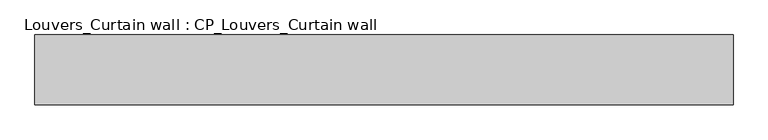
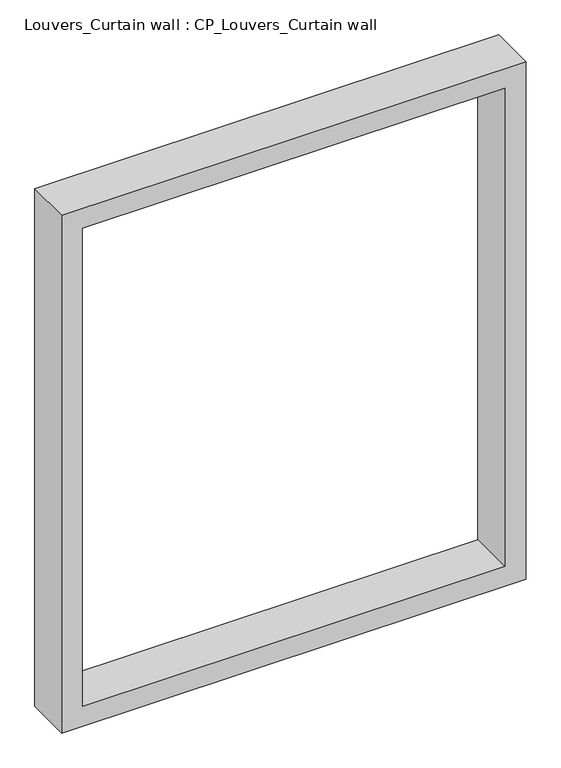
"""IFC4 building model written with IfcOpenShell, lengths in millimetres: plate geometry, Louvers_Curtain wall : CP_Louvers_Curtain wall."""

from ifc_helpers import new_model, si_unit, frame, origin, place, context, project, spatial, polyline, outline, extrude, source, transform, mapped, element, save


def louvers_curtain_wall_cp_louvers_curtain_wall_1faf513d(model_context):
    return source(origin(), model_context, "Body", "SweptSolid", [
        extrude(outline(polyline([(0.0, 635.6919326), (1498.6, 635.6919326), (1498.6, -635.6919326), (0.0, -635.6919326), (0.0, 635.6919326)]), holes=[polyline([(57.15, -578.5419326), (1441.45, -578.5419326), (1441.45, 578.5419326), (57.15, 578.5419326), (57.15, -578.5419326)])]), frame((0.0, -63.5, 0.0), z_axis=(0.0, 1.0, 0.0), x_axis=(0.0, 0.0, 1.0)), (0.0, 0.0, 1.0), 127.0),
    ])


if __name__ == "__main__":
    model = new_model("IFC4")
    model_context = context("Model", 3, world=origin())
    ifc_project = project(units=[si_unit("LENGTHUNIT", "METRE", prefix="MILLI")], contexts=[model_context])
    site = spatial("IfcSite", under=ifc_project)
    building = spatial("IfcBuilding", under=site)
    placement = place(None, origin())
    louvers_curtain_wall_cp_louvers_curtain_wall_shape = louvers_curtain_wall_cp_louvers_curtain_wall_1faf513d(model_context)
    element("IfcPlate", 1, ObjectType="Louvers_Curtain wall : CP_Louvers_Curtain wall", at=placement, inside=building, context=model_context, shape_type="MappedRepresentation", body=[
        mapped(louvers_curtain_wall_cp_louvers_curtain_wall_shape, transform((0.0, 0.0, 0.0), x_axis=(1.0, 0.0, 0.0), y_axis=(0.0, 1.0, 0.0), z_axis=(0.0, 0.0, 1.0))),
    ])
    save(model, "model.ifc")
